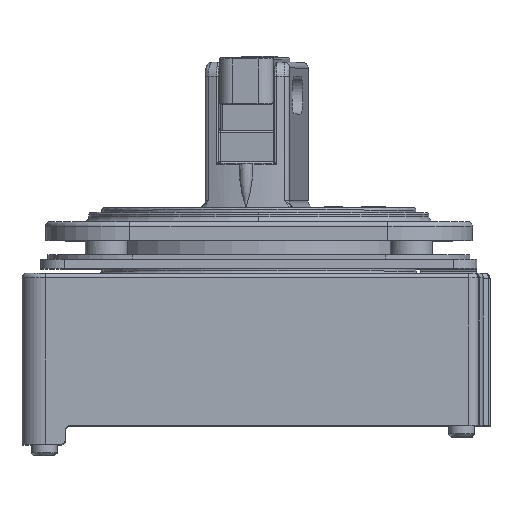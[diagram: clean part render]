
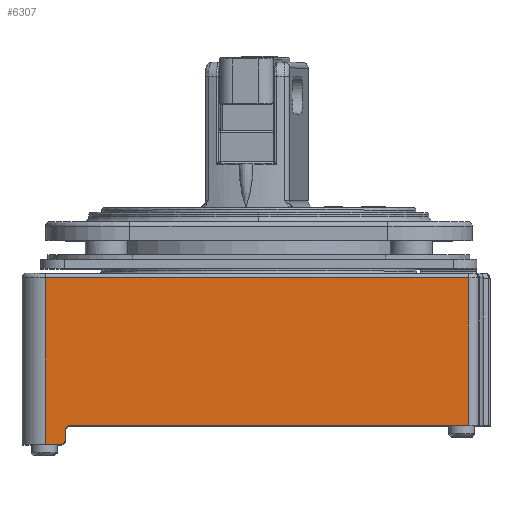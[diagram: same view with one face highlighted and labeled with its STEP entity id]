
A CAD part, top view. The second image highlights one B-rep face of the part: STEP entity #6307.
In plain terms, the highlighted planar face has unit normal (0, 0, 1).
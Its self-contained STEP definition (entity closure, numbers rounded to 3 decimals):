
#4412=FACE_OUTER_BOUND('',#9432,.T.);
#6307=ADVANCED_FACE('',(#4412),#7499,.T.);
#7499=PLANE('',#37724);
#9432=EDGE_LOOP('',(#23824,#23825,#23826,#23827,#23828,#23829,#23830,#23831));
#12048=LINE('',#58548,#15157);
#12097=LINE('',#58741,#15206);
#12520=LINE('',#60401,#15638);
#12521=LINE('',#60428,#15639);
#12522=LINE('',#60430,#15640);
#12523=LINE('',#60434,#15641);
#15157=VECTOR('',#44742,1.);
#15206=VECTOR('',#44889,1.);
#15638=VECTOR('',#46213,1.);
#15639=VECTOR('',#46232,1.);
#15640=VECTOR('',#46235,1.);
#15641=VECTOR('',#46238,1.);
#23824=ORIENTED_EDGE('',*,*,#32913,.T.);
#23825=ORIENTED_EDGE('',*,*,#32914,.T.);
#23826=ORIENTED_EDGE('',*,*,#32237,.T.);
#23827=ORIENTED_EDGE('',*,*,#32912,.T.);
#23828=ORIENTED_EDGE('',*,*,#32906,.F.);
#23829=ORIENTED_EDGE('',*,*,#32915,.T.);
#23830=ORIENTED_EDGE('',*,*,#32142,.T.);
#23831=ORIENTED_EDGE('',*,*,#32916,.T.);
#27877=VERTEX_POINT('',#58547);
#27878=VERTEX_POINT('',#58549);
#27972=VERTEX_POINT('',#58740);
#27973=VERTEX_POINT('',#58742);
#28397=VERTEX_POINT('',#60398);
#28398=VERTEX_POINT('',#60402);
#28399=VERTEX_POINT('',#60431);
#28400=VERTEX_POINT('',#60432);
#32142=EDGE_CURVE('',#27878,#27877,#12048,.T.);
#32237=EDGE_CURVE('',#27973,#27972,#12097,.T.);
#32906=EDGE_CURVE('',#28397,#28398,#12520,.T.);
#32912=EDGE_CURVE('',#27972,#28398,#12521,.T.);
#32913=EDGE_CURVE('',#28399,#28400,#12522,.T.);
#32914=EDGE_CURVE('',#28400,#27973,#34838,.T.);
#32915=EDGE_CURVE('',#28397,#27878,#12523,.T.);
#32916=EDGE_CURVE('',#27877,#28399,#34839,.T.);
#34838=CIRCLE('',#37722,1.);
#34839=CIRCLE('',#37723,1.);
#37722=AXIS2_PLACEMENT_3D('',#60433,#46236,#46237);
#37723=AXIS2_PLACEMENT_3D('',#60435,#46239,#46240);
#37724=AXIS2_PLACEMENT_3D('',#60436,#46241,#46242);
#44742=DIRECTION('',(1.,0.,0.));
#44889=DIRECTION('',(1.,0.,0.));
#46213=DIRECTION('',(1.,0.,0.));
#46232=DIRECTION('',(0.,1.,0.));
#46235=DIRECTION('',(0.,1.,0.));
#46236=DIRECTION('',(0.,0.,-1.));
#46237=DIRECTION('',(-1.,0.,0.));
#46238=DIRECTION('',(0.,-1.,0.));
#46239=DIRECTION('',(0.,0.,1.));
#46240=DIRECTION('',(0.,-1.,0.));
#46241=DIRECTION('',(0.,0.,1.));
#46242=DIRECTION('',(-1.,0.,0.));
#58547=CARTESIAN_POINT('',(-42.2,-4.,52.5));
#58548=CARTESIAN_POINT('',(-45.5,-4.,52.5));
#58549=CARTESIAN_POINT('',(-45.5,-4.,52.5));
#58740=CARTESIAN_POINT('',(44.8,0.,52.5));
#58741=CARTESIAN_POINT('',(-40.2,0.,52.5));
#58742=CARTESIAN_POINT('',(-40.2,0.,52.5));
#60398=CARTESIAN_POINT('',(-45.5,31.5,52.5));
#60401=CARTESIAN_POINT('',(-45.5,31.5,52.5));
#60402=CARTESIAN_POINT('',(44.8,31.5,52.5));
#60428=CARTESIAN_POINT('',(44.8,0.,52.5));
#60430=CARTESIAN_POINT('',(-41.2,-3.,52.5));
#60431=CARTESIAN_POINT('',(-41.2,-3.,52.5));
#60432=CARTESIAN_POINT('',(-41.2,-1.,52.5));
#60433=CARTESIAN_POINT('',(-40.2,-1.,52.5));
#60434=CARTESIAN_POINT('',(-45.5,31.5,52.5));
#60435=CARTESIAN_POINT('',(-42.2,-3.,52.5));
#60436=CARTESIAN_POINT('',(0.,0.,52.5));
